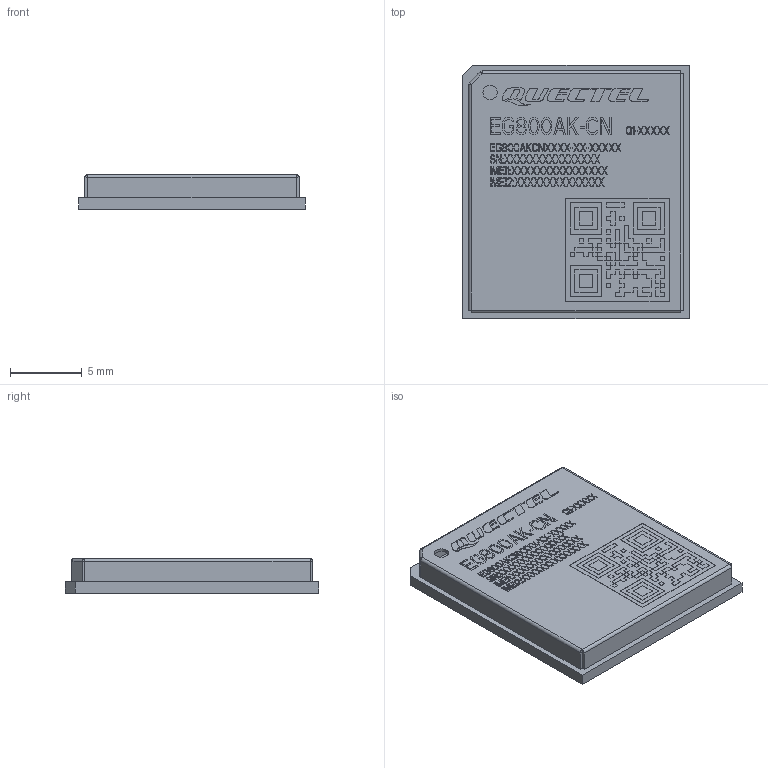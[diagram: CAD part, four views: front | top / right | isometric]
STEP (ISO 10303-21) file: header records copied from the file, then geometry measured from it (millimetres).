
FILE_DESCRIPTION((''),'2;1');
FILE_NAME('EG800AK-CN_ASM','2024-09-03T',('atim.chen'),(''),'CREO PARAMETRIC BY PTC INC, 2014190','CREO PARAMETRIC BY PTC INC, 2014190','');
FILE_SCHEMA(('AUTOMOTIVE_DESIGN { 1 0 10303 214 1 1 1 1 }'));
Products named in the file (3): EG800AK-CN-PCB; EG800AK-CN-COVER_1848; EG800AK-CN_ASM
Assembly tree (2 placements, depth 2):
  EG800AK-CN_ASM
    EG800AK-CN-PCB
    EG800AK-CN-COVER_1848
Bounding box: 15.8 x 17.7 x 2.4 mm (x, y, z)
Volume: 288.3 mm3; surface area: 1317.5 mm2
Topology: 2 solids, 2 shells, 2648 faces, 7064 edges, 4670 vertices
Faces by surface type: plane 2541, extrusion 100, cylinder 7
Entity records: 105673 total; most frequent: CARTESIAN_POINT 15796, ORIENTED_EDGE 14128, DIRECTION 12084, PRESENTATION_STYLE_ASSIGNMENT 7299, STYLED_ITEM 7066, CURVE_STYLE 7064, EDGE_CURVE 7064, VECTOR 6950
